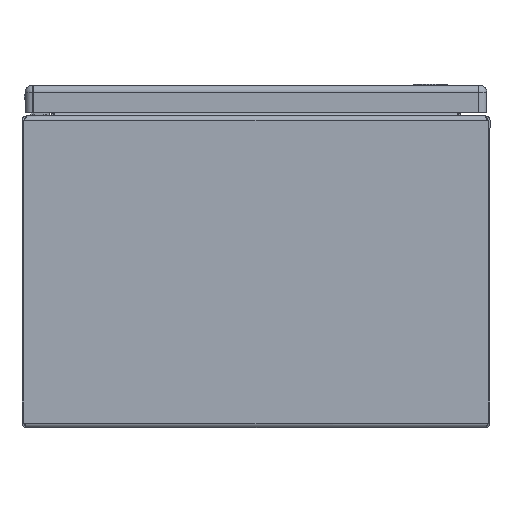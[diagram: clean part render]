
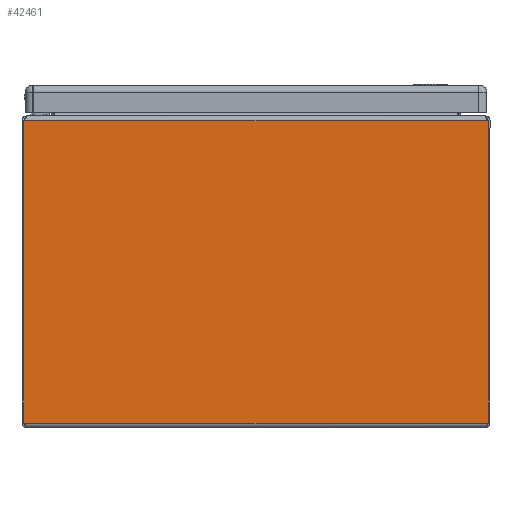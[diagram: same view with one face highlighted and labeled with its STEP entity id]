
A CAD part, front view. The second image highlights one B-rep face of the part: STEP entity #42461.
In plain terms, the highlighted planar face has unit normal (0, -1, 0).
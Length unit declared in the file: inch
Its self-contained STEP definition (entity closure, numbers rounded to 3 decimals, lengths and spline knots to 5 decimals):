
#2893 = FACE_OUTER_BOUND ( 'NONE', #41144, .T. ) ;
#3590 = LINE ( 'NONE', #16727, #3593 ) ;
#3593 = VECTOR ( 'NONE', #16710, 39.37008 ) ;
#3600 = LINE ( 'NONE', #16895, #3602 ) ;
#3602 = VECTOR ( 'NONE', #16871, 39.37008 ) ;
#3605 = VECTOR ( 'NONE', #17195, 39.37008 ) ;
#3626 = VECTOR ( 'NONE', #16559, 39.37008 ) ;
#3646 = LINE ( 'NONE', #17215, #3605 ) ;
#3660 = LINE ( 'NONE', #17702, #3626 ) ;
#16559 = DIRECTION ( 'NONE',  ( -1., 0., 0. ) ) ;
#16710 = DIRECTION ( 'NONE',  ( 0., 0., 1. ) ) ;
#16727 = CARTESIAN_POINT ( 'NONE',  ( -5.95229, -8., 0.047 ) ) ;
#16871 = DIRECTION ( 'NONE',  ( -1., 0., 0. ) ) ;
#16895 = CARTESIAN_POINT ( 'NONE',  ( -6., -8., 0.125 ) ) ;
#17195 = DIRECTION ( 'NONE',  ( 0., 0., 1. ) ) ;
#17215 = CARTESIAN_POINT ( 'NONE',  ( 5.95229, -8., 8. ) ) ;
#17702 = CARTESIAN_POINT ( 'NONE',  ( 5.95229, -8., 7.875 ) ) ;
#19170 = DIRECTION ( 'NONE',  ( 0., 0., 1. ) ) ;
#19785 = DIRECTION ( 'NONE',  ( 0., 1., 0. ) ) ;
#20578 = PLANE ( 'NONE',  #30338 ) ;
#20688 = CARTESIAN_POINT ( 'NONE',  ( -6., -8., 8. ) ) ;
#25666 = ORIENTED_EDGE ( 'NONE', *, *, #42232, .T. ) ;
#25668 = ORIENTED_EDGE ( 'NONE', *, *, #42239, .T. ) ;
#25669 = ORIENTED_EDGE ( 'NONE', *, *, #42167, .F. ) ;
#25671 = ORIENTED_EDGE ( 'NONE', *, *, #42169, .F. ) ;
#30338 = AXIS2_PLACEMENT_3D ( 'NONE', #20688, #19785, #19170 ) ;
#31912 = VERTEX_POINT ( 'NONE', #33904 ) ;
#31924 = VERTEX_POINT ( 'NONE', #32779 ) ;
#32293 = VERTEX_POINT ( 'NONE', #36028 ) ;
#32372 = VERTEX_POINT ( 'NONE', #36162 ) ;
#32779 = CARTESIAN_POINT ( 'NONE',  ( -5.95229, -8., 0.125 ) ) ;
#33904 = CARTESIAN_POINT ( 'NONE',  ( 5.95229, -8., 0.125 ) ) ;
#36028 = CARTESIAN_POINT ( 'NONE',  ( 5.95229, -8., 7.875 ) ) ;
#36162 = CARTESIAN_POINT ( 'NONE',  ( -5.95229, -8., 7.875 ) ) ;
#41144 = EDGE_LOOP ( 'NONE', ( #25666, #25671, #25669, #25668 ) ) ;
#42167 = EDGE_CURVE ( 'NONE', #31912, #31924, #3600, .T. ) ;
#42169 = EDGE_CURVE ( 'NONE', #31924, #32372, #3590, .T. ) ;
#42232 = EDGE_CURVE ( 'NONE', #32293, #32372, #3660, .T. ) ;
#42239 = EDGE_CURVE ( 'NONE', #31912, #32293, #3646, .T. ) ;
#42461 = ADVANCED_FACE ( 'NONE', ( #2893 ), #20578, .F. ) ;
